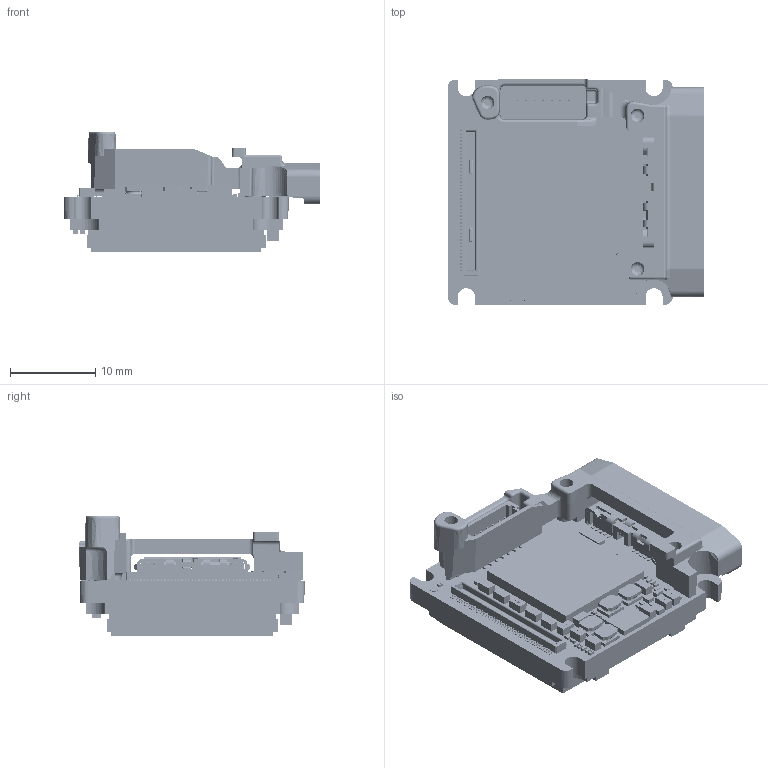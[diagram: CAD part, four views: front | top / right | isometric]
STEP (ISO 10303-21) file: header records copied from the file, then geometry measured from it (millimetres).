
FILE_DESCRIPTION (( 'STEP AP214' ), '1' );
FILE_NAME ('Alvium-USB90-Bare-Board-IMX-992-993.STEP', '2023-07-27T11:21:05', ( '' ), ( '' ), 'SwSTEP 2.0', 'SolidWorks 2021', '' );
FILE_SCHEMA (( 'AUTOMOTIVE_DESIGN' ));
Length unit declared in the file: millimetre
Products named in the file (1): Alvium-USB90-Bare-Board-IMX-992-993
Bounding box: 30.1 x 26.45 x 14.14 mm (x, y, z)
Volume: 4556.6 mm3; surface area: 6659.7 mm2
Topology: 173 solids, 173 shells, 12044 faces, 30407 edges, 19747 vertices
Faces by surface type: plane 6385, bspline 4390, cylinder 1175, cone 38, torus 32, sphere 24
Entity records: 743636 total; most frequent: CARTESIAN_POINT 349517, ORIENTED_EDGE 60768, DIRECTION 39014, EDGE_CURVE 30384, VERTEX_POINT 19747, VECTOR 19000, LINE 19000, EDGE_LOOP 13149
